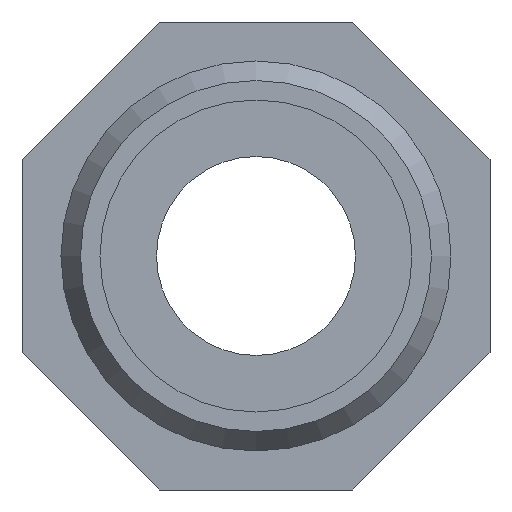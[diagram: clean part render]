
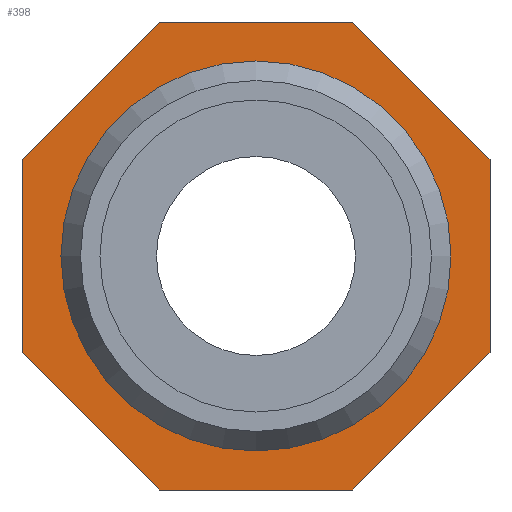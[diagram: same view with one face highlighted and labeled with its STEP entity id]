
A CAD part, front view. The second image highlights one B-rep face of the part: STEP entity #398.
In plain terms, the highlighted planar face has unit normal (0, -1, 0).
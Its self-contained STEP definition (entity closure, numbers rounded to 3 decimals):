
#18=LINE('',#3762,#45);
#19=LINE('',#3764,#46);
#20=LINE('',#3766,#47);
#21=LINE('',#3768,#48);
#22=LINE('',#3770,#49);
#23=LINE('',#3772,#50);
#24=LINE('',#3774,#51);
#25=LINE('',#3775,#52);
#45=VECTOR('',#499,9.941);
#46=VECTOR('',#500,9.941);
#47=VECTOR('',#501,9.941);
#48=VECTOR('',#502,9.941);
#49=VECTOR('',#503,9.941);
#50=VECTOR('',#504,9.941);
#51=VECTOR('',#505,9.941);
#52=VECTOR('',#506,9.941);
#90=PLANE('',#434);
#114=FACE_BOUND('',#168,.T.);
#132=FACE_OUTER_BOUND('',#167,.T.);
#167=EDGE_LOOP('',(#327,#328,#329,#330,#331,#332,#333,#334));
#168=EDGE_LOOP('',(#335));
#181=CIRCLE('',#414,10.);
#194=VERTEX_POINT('',#548);
#212=VERTEX_POINT('',#3760);
#213=VERTEX_POINT('',#3761);
#214=VERTEX_POINT('',#3763);
#215=VERTEX_POINT('',#3765);
#216=VERTEX_POINT('',#3767);
#217=VERTEX_POINT('',#3769);
#218=VERTEX_POINT('',#3771);
#219=VERTEX_POINT('',#3773);
#230=EDGE_CURVE('',#194,#194,#181,.T.);
#255=EDGE_CURVE('',#212,#213,#18,.T.);
#256=EDGE_CURVE('',#213,#214,#19,.T.);
#257=EDGE_CURVE('',#214,#215,#20,.T.);
#258=EDGE_CURVE('',#215,#216,#21,.T.);
#259=EDGE_CURVE('',#216,#217,#22,.T.);
#260=EDGE_CURVE('',#217,#218,#23,.T.);
#261=EDGE_CURVE('',#218,#219,#24,.T.);
#262=EDGE_CURVE('',#219,#212,#25,.T.);
#327=ORIENTED_EDGE('',*,*,#255,.T.);
#328=ORIENTED_EDGE('',*,*,#256,.T.);
#329=ORIENTED_EDGE('',*,*,#257,.T.);
#330=ORIENTED_EDGE('',*,*,#258,.T.);
#331=ORIENTED_EDGE('',*,*,#259,.T.);
#332=ORIENTED_EDGE('',*,*,#260,.T.);
#333=ORIENTED_EDGE('',*,*,#261,.T.);
#334=ORIENTED_EDGE('',*,*,#262,.T.);
#335=ORIENTED_EDGE('',*,*,#230,.T.);
#398=ADVANCED_FACE('',(#132,#114),#90,.T.);
#414=AXIS2_PLACEMENT_3D('',#549,#454,#455);
#434=AXIS2_PLACEMENT_3D('',#3759,#497,#498);
#454=DIRECTION('center_axis',(0.,1.,0.));
#455=DIRECTION('ref_axis',(-1.,0.,0.));
#497=DIRECTION('center_axis',(0.,-1.,0.));
#498=DIRECTION('ref_axis',(0.,0.,-1.));
#499=DIRECTION('',(-1.,0.,0.));
#500=DIRECTION('',(-0.707,0.,-0.707));
#501=DIRECTION('',(0.,0.,-1.));
#502=DIRECTION('',(0.707,0.,-0.707));
#503=DIRECTION('',(1.,0.,0.));
#504=DIRECTION('',(0.707,0.,0.707));
#505=DIRECTION('',(0.,0.,1.));
#506=DIRECTION('',(-0.707,0.,0.707));
#548=CARTESIAN_POINT('',(10.,-6.,0.));
#549=CARTESIAN_POINT('Origin',(0.,-6.,0.));
#3759=CARTESIAN_POINT('Origin',(0.,-6.,0.));
#3760=CARTESIAN_POINT('',(4.971,-6.,12.));
#3761=CARTESIAN_POINT('',(-4.971,-6.,12.));
#3762=CARTESIAN_POINT('',(4.971,-6.,12.));
#3763=CARTESIAN_POINT('',(-12.,-6.,4.971));
#3764=CARTESIAN_POINT('',(-4.971,-6.,12.));
#3765=CARTESIAN_POINT('',(-12.,-6.,-4.971));
#3766=CARTESIAN_POINT('',(-12.,-6.,4.971));
#3767=CARTESIAN_POINT('',(-4.971,-6.,-12.));
#3768=CARTESIAN_POINT('',(-12.,-6.,-4.971));
#3769=CARTESIAN_POINT('',(4.971,-6.,-12.));
#3770=CARTESIAN_POINT('',(-4.971,-6.,-12.));
#3771=CARTESIAN_POINT('',(12.,-6.,-4.971));
#3772=CARTESIAN_POINT('',(4.971,-6.,-12.));
#3773=CARTESIAN_POINT('',(12.,-6.,4.971));
#3774=CARTESIAN_POINT('',(12.,-6.,-4.971));
#3775=CARTESIAN_POINT('',(12.,-6.,4.971));
